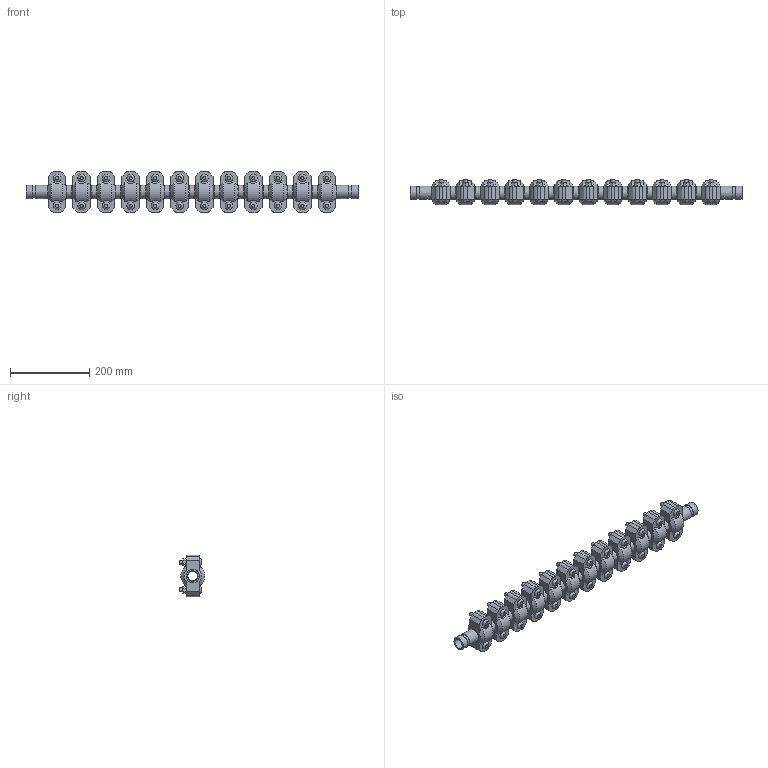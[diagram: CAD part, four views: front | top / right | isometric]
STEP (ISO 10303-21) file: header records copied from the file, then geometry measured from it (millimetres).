
FILE_DESCRIPTION(/* description */ ('VIC EXPANSION JOINT 12 COUPLINGS EXPANDED STYLE 155 (OGS)','CAx-IF Rec.Pracs.---Representation and Presentation of Product Manufacturing Information (PMI)---4.0---2014-10-13'),/* implementation_level */ '2;1');
FILE_NAME(/* name */ 'C:\Users\kkamble\AppData\Roaming\Autodesk\ApplicationPlugins\Victaulic.Temp\A519\Victaulic_IPS_Expansion Joint_Expanded_12 Couplings_Style 155 (OGS)_1 (25).stp',/* time_stamp */ '2021-06-26T23:53:49+02:00',/* author */ ('kkamble'),/* organization */ ('Victaulic'),/* preprocessor_version */ 'ST-DEVELOPER v17.2',/* originating_system */ 'Autodesk Inventor 2019',/* authorisation */ '');
FILE_SCHEMA (('AP242_MANAGED_MODEL_BASED_3D_ENGINEERING_MIM_LF { 1 0 10303 442 1 1 4 }'));
Length unit declared in the file: inch
Products named in the file (4): 155-01.0; Nipple-01.0; Nipple-01.0_1; 077-01.0
Assembly tree (25 placements, depth 2):
  155-01.0
    Nipple-01.0  x2
    Nipple-01.0_1  x11
    077-01.0  x12
Bounding box: 838.45 x 64.33 x 104.65 mm (x, y, z)
Volume: 1978694 mm3; surface area: 521797.7 mm2
Topology: 25 solids, 49 shells, 888 faces, 2130 edges, 1488 vertices
Faces by surface type: plane 510, cylinder 306, cone 48, bspline 24
Full cylindrical faces by diameter (mm): 9.525 x48, 11.43 x24, 24.511 x12, 26.645 x13, 30.226 x26, 33.401 x63
Entity records: 3097 total; most frequent: CARTESIAN_POINT 585, DIRECTION 513, ORIENTED_EDGE 410, AXIS2_PLACEMENT_3D 208, EDGE_CURVE 205, VERTEX_POINT 146, EDGE_LOOP 111, LINE 97
